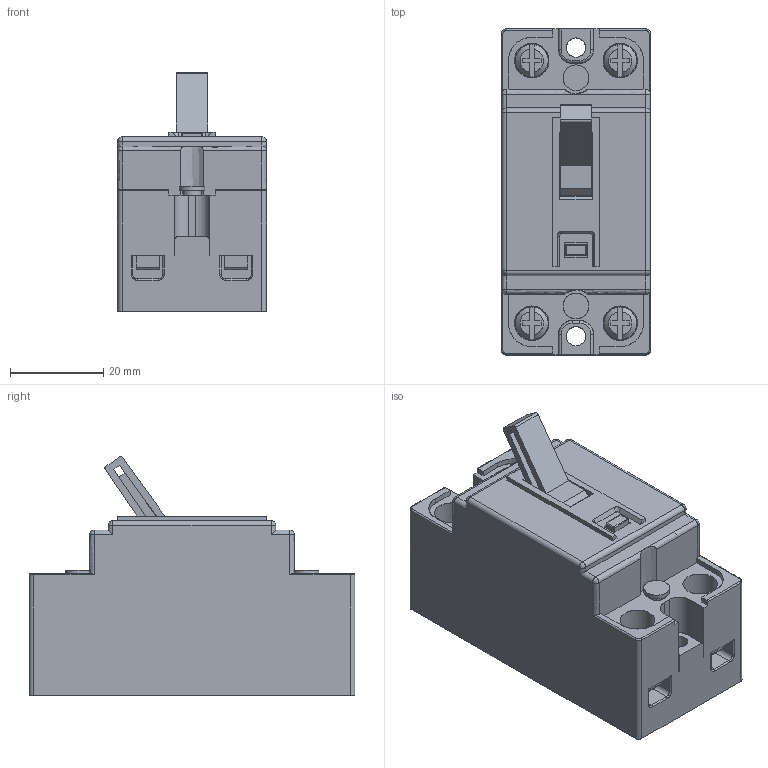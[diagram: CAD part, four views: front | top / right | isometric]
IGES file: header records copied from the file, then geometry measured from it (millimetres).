
Global section: file name: C:\config\06_kd-lb2123sa_141029.igs; native system: NX V8.0; preprocessor: SIEMENS PLM Software NX 8.0; date: 20141029.094816; units: millimetre
Bounding box: 32 x 70 x 51.3 mm (x, y, z)
Surface area: 15813 mm2 (no closed solid volume)
Topology: 0 solids, 0 shells, 326 faces, 2519 edges, 2503 vertices
Faces by surface type: bspline 326
